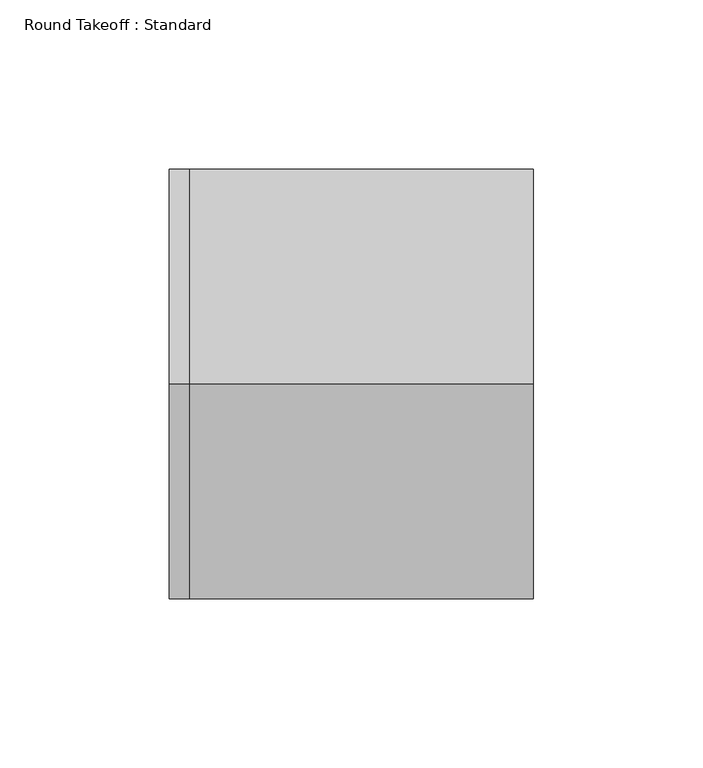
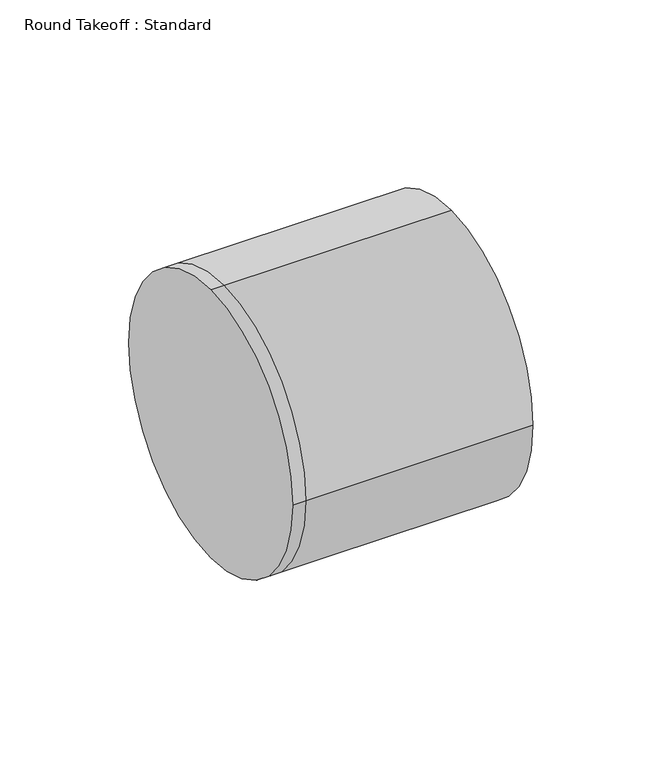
"""IFC4 building model written with IfcOpenShell, lengths in millimetres: duct fitting geometry, Round Takeoff : Standard."""

from ifc_helpers import new_model, si_unit, frame, origin, place, context, project, spatial, circle_curve, source, transform, mapped, element, save
from ifc_brep_helpers import plane_surface, cylinder_surface, advanced_brep


def round_takeoff_standard_7fe2b2d5(model_context):
    return source(origin(), model_context, "Body", "AdvancedBrep", [
        advanced_brep(
        [(101.6, 0.0, 63.5), (101.6, -63.5, 0.0), (101.6, 0.0, -63.5), (101.6, 63.5, 0.0), (0.0, 63.5, 0.0), (0.0, 0.0, 63.5), (0.0, 0.0, -63.5), (0.0, -63.5, 0.0), (-6.096, 0.0, 63.5), (-6.096, 63.5, 0.0), (-6.096, 0.0, -63.5), (-6.096, -63.5, 0.0)],
        [
            (0, 1, circle_curve(frame((101.6, 0.0, 0.0), z_axis=(1.0, 0.0, 0.0), x_axis=(0.0, 1.0, 0.0)), 63.5)),
            (1, 2, circle_curve(frame((101.6, 0.0, 0.0), z_axis=(1.0, 0.0, 0.0), x_axis=(0.0, 1.0, 0.0)), 63.5)),
            (2, 3, circle_curve(frame((101.6, 0.0, 0.0), z_axis=(1.0, 0.0, 0.0), x_axis=(0.0, 1.0, 0.0)), 63.5)),
            (3, 0, circle_curve(frame((101.6, 0.0, 0.0), z_axis=(1.0, 0.0, 0.0), x_axis=(0.0, 1.0, 0.0)), 63.5)),
            (3, 4),
            (4, 5, circle_curve(frame((0.0, 0.0, 0.0), z_axis=(1.0, 0.0, 0.0), x_axis=(0.0, 1.0, 0.0)), 63.5)),
            (5, 0),
            (2, 6),
            (6, 4, circle_curve(frame((0.0, 0.0, 0.0), z_axis=(1.0, 0.0, 0.0), x_axis=(0.0, 1.0, 0.0)), 63.5)),
            (1, 7),
            (7, 6, circle_curve(frame((0.0, 0.0, 0.0), z_axis=(1.0, 0.0, 0.0), x_axis=(0.0, 1.0, 0.0)), 63.5)),
            (5, 7, circle_curve(frame((0.0, 0.0, 0.0), z_axis=(1.0, 0.0, 0.0), x_axis=(0.0, 1.0, 0.0)), 63.5)),
            (8, 9, circle_curve(frame((-6.096, 0.0, 0.0), z_axis=(-1.0, 0.0, 0.0), x_axis=(0.0, 1.0, 0.0)), 63.5)),
            (9, 10, circle_curve(frame((-6.096, 0.0, 0.0), z_axis=(-1.0, 0.0, 0.0), x_axis=(0.0, 1.0, 0.0)), 63.5)),
            (10, 11, circle_curve(frame((-6.096, 0.0, 0.0), z_axis=(-1.0, 0.0, 0.0), x_axis=(0.0, 1.0, 0.0)), 63.5)),
            (11, 8, circle_curve(frame((-6.096, 0.0, 0.0), z_axis=(-1.0, 0.0, 0.0), x_axis=(0.0, 1.0, 0.0)), 63.5)),
            (8, 5),
            (4, 9),
            (6, 10),
            (7, 11),
        ],
        [
            plane_surface(frame((101.6, 0.0, 0.0), z_axis=(1.0, 0.0, 0.0), x_axis=(0.0, 0.0, 1.0))),
            cylinder_surface(frame((0.0, 0.0, 0.0), z_axis=(-1.0, 0.0, 0.0), x_axis=(0.0, 1.0, 0.0)), 63.5),
            plane_surface(frame((-6.096, 0.0, 0.0), z_axis=(-1.0, 0.0, 0.0), x_axis=(0.0, 0.0, 1.0))),
            cylinder_surface(frame((-6.096, 0.0, 0.0), z_axis=(-1.0, 0.0, 0.0), x_axis=(0.0, 1.0, 0.0)), 63.5),
        ],
        [
            (0, [[1, 2, 3, 4]]),
            (1, [[-4, 5, 6, 7]]),
            (1, [[-3, 8, 9, -5]]),
            (1, [[-2, 10, 11, -8]]),
            (1, [[-1, -7, 12, -10]]),
            (2, [[13, 14, 15, 16]]),
            (3, [[-13, 17, -6, 18]]),
            (3, [[-14, -18, -9, 19]]),
            (3, [[-15, -19, -11, 20]]),
            (3, [[-16, -20, -12, -17]]),
        ],
    ),
    ])


if __name__ == "__main__":
    model = new_model("IFC4")
    model_context = context("Model", 3, world=origin())
    ifc_project = project(units=[si_unit("LENGTHUNIT", "METRE", prefix="MILLI")], contexts=[model_context])
    site = spatial("IfcSite", under=ifc_project)
    building = spatial("IfcBuilding", under=site)
    placement = place(None, origin())
    round_takeoff_standard_shape = round_takeoff_standard_7fe2b2d5(model_context)
    element("IfcDuctFitting", 1, ObjectType="Round Takeoff : Standard", at=placement, inside=building, context=model_context, shape_type="MappedRepresentation", body=[
        mapped(round_takeoff_standard_shape, transform((0.0, 0.0, 0.0), x_axis=(1.0, 0.0, 0.0), y_axis=(0.0, 1.0, 0.0), z_axis=(0.0, 0.0, 1.0))),
    ])
    save(model, "model.ifc")
